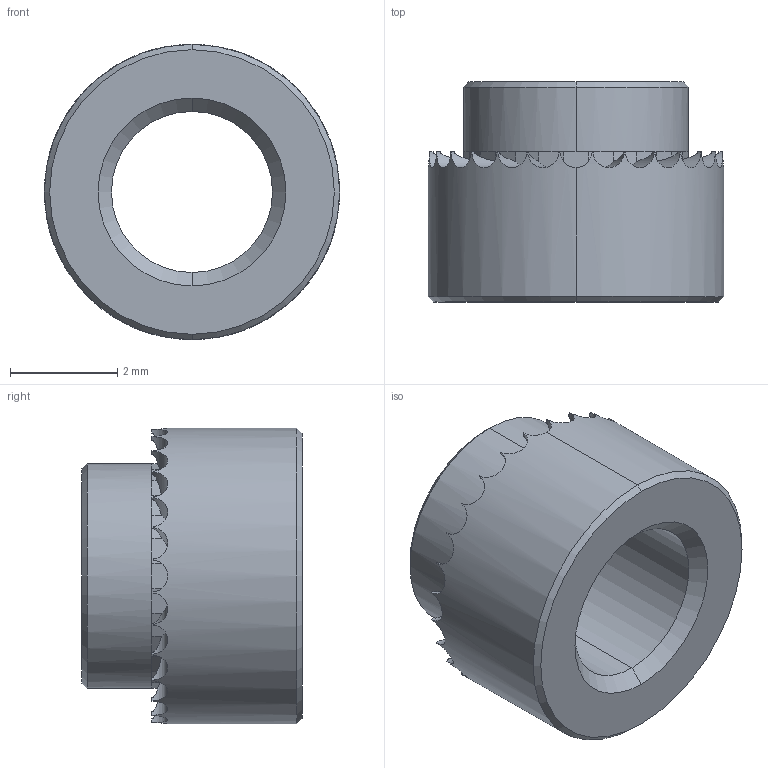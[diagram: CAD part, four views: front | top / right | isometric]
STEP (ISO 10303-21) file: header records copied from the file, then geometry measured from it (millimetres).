
FILE_DESCRIPTION (( 'STEP AP203' ), '1' );
FILE_NAME ('P0829.030-22G-ZP.step', '2019-03-21T22:12:37', ( '' ), ( '' ), 'SwSTEP 2.0', 'SolidWorks 2017', '' );
FILE_SCHEMA (( 'CONFIG_CONTROL_DESIGN' ));
Length unit declared in the file: millimetre
Products named in the file (1): P0829.030-22G-ZP
Bounding box: 5.5 x 4.1 x 5.5 mm (x, y, z)
Volume: 52.2 mm3; surface area: 135.6 mm2
Topology: 1 solids, 1 shells, 128 faces, 312 edges, 186 vertices
Faces by surface type: plane 86, cylinder 34, cone 8
Entity records: 3963 total; most frequent: CARTESIAN_POINT 965, ORIENTED_EDGE 624, DIRECTION 612, EDGE_CURVE 312, AXIS2_PLACEMENT_3D 229, VERTEX_POINT 186, VECTOR 154, LINE 154
